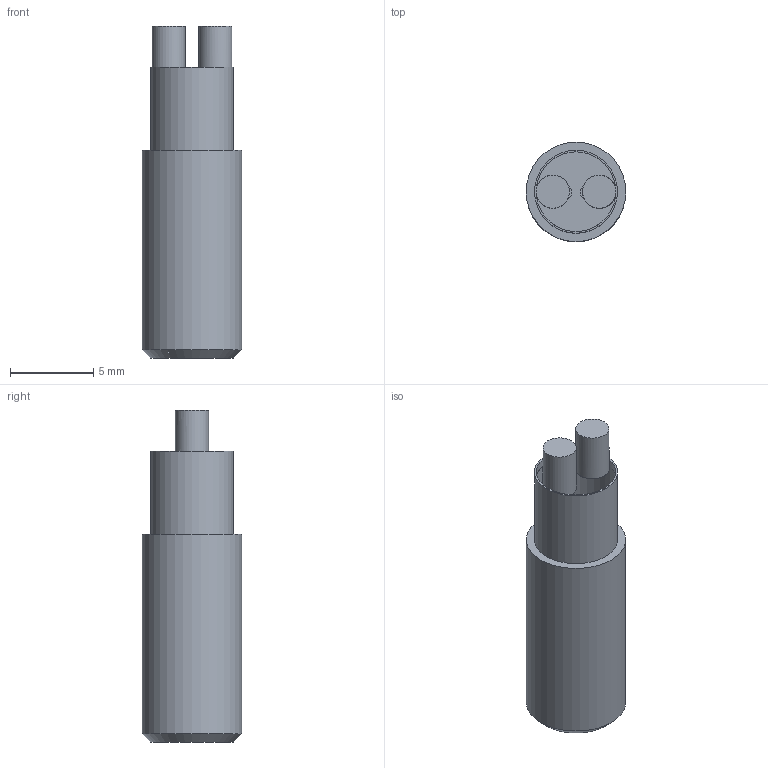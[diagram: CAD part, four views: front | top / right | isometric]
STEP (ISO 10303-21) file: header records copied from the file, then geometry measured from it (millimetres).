
FILE_DESCRIPTION(/* description */ (''),/* implementation_level */ '2;1');
FILE_NAME(/* name */ 'D:\DeltaBox\OneDrive - Delta Electronics, Inc\Documents\Delta-Arther\1.專案\2304 機電整合丙級\機丙三\垂直升降及換向模組\光纖FR-610_1.stp',/* time_stamp */ '2023-11-03T14:49:51+08:00',/* author */ ('ARTHER.LAN'),/* organization */ (''),/* preprocessor_version */ 'ST-DEVELOPER v19',/* originating_system */ 'Autodesk Inventor 2023',/* authorisation */ '');
FILE_SCHEMA (('AUTOMOTIVE_DESIGN { 1 0 10303 214 3 1 1 }'));
Length unit declared in the file: millimetre
Products named in the file (1): 光纖FR-610_1
Bounding box: 6 x 6 x 20 mm (x, y, z)
Volume: 459 mm3; surface area: 410.7 mm2
Topology: 1 solids, 1 shells, 16 faces, 27 edges, 16 vertices
Faces by surface type: plane 8, cylinder 7, cone 1
Full cylindrical faces by diameter (mm): 1 x2, 2 x2, 4.8 x1, 5 x1, 6 x1
Entity records: 469 total; most frequent: DIRECTION 79, CARTESIAN_POINT 60, ORIENTED_EDGE 54, AXIS2_PLACEMENT_3D 35, EDGE_CURVE 27, EDGE_LOOP 20, CIRCLE 18, STYLED_ITEM 17
